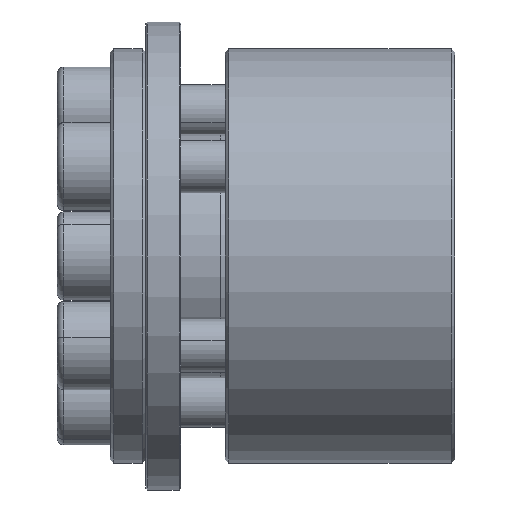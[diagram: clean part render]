
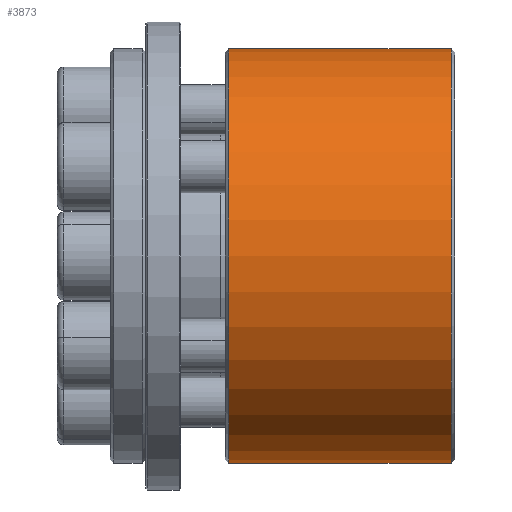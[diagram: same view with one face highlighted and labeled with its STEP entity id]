
A CAD part, front view. The second image highlights one B-rep face of the part: STEP entity #3873.
In plain terms, the highlighted cylindrical face has radius 23.46 mm (diameter 46.92 mm), a partial arc.
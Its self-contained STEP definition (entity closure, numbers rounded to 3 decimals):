
#427 = CYLINDRICAL_SURFACE ( 'NONE', #3672, 23.46 ) ;
#527 = VECTOR ( 'NONE', #5655, 1000. ) ;
#668 = CARTESIAN_POINT ( 'NONE',  ( -92.766, 26.04, -23.46 ) ) ;
#706 = ORIENTED_EDGE ( 'NONE', *, *, #2789, .F. ) ;
#815 = AXIS2_PLACEMENT_3D ( 'NONE', #3629, #6204, #4694 ) ;
#963 = VECTOR ( 'NONE', #5692, 1000. ) ;
#984 = VERTEX_POINT ( 'NONE', #3770 ) ;
#1218 = EDGE_CURVE ( 'NONE', #984, #4377, #3642, .T. ) ;
#1375 = DIRECTION ( 'NONE',  ( 0., 0., 1. ) ) ;
#1420 = EDGE_CURVE ( 'NONE', #3861, #984, #4655, .T. ) ;
#1639 = LINE ( 'NONE', #668, #527 ) ;
#1829 = CARTESIAN_POINT ( 'NONE',  ( -92.766, 26.04, 0. ) ) ;
#1860 = ORIENTED_EDGE ( 'NONE', *, *, #1420, .T. ) ;
#2789 = EDGE_CURVE ( 'NONE', #3861, #5122, #1639, .T. ) ;
#2809 = EDGE_LOOP ( 'NONE', ( #706, #1860, #6065, #5088 ) ) ;
#3087 = CARTESIAN_POINT ( 'NONE',  ( -92.366, 26.04, 23.46 ) ) ;
#3629 = CARTESIAN_POINT ( 'NONE',  ( -92.366, 26.04, 0. ) ) ;
#3642 = LINE ( 'NONE', #4677, #963 ) ;
#3672 = AXIS2_PLACEMENT_3D ( 'NONE', #1829, #3987, #3923 ) ;
#3770 = CARTESIAN_POINT ( 'NONE',  ( -67.166, 26.04, 23.46 ) ) ;
#3861 = VERTEX_POINT ( 'NONE', #4989 ) ;
#3873 = ADVANCED_FACE ( 'NONE', ( #5020 ), #427, .T. ) ;
#3923 = DIRECTION ( 'NONE',  ( 0., 0., 1. ) ) ;
#3987 = DIRECTION ( 'NONE',  ( -1., 0., 0. ) ) ;
#4075 = DIRECTION ( 'NONE',  ( -1., 0., 0. ) ) ;
#4377 = VERTEX_POINT ( 'NONE', #3087 ) ;
#4427 = CIRCLE ( 'NONE', #815, 23.46 ) ;
#4655 = CIRCLE ( 'NONE', #5811, 23.46 ) ;
#4677 = CARTESIAN_POINT ( 'NONE',  ( -92.766, 26.04, 23.46 ) ) ;
#4694 = DIRECTION ( 'NONE',  ( 0., 0., -1. ) ) ;
#4989 = CARTESIAN_POINT ( 'NONE',  ( -67.166, 26.04, -23.46 ) ) ;
#5020 = FACE_OUTER_BOUND ( 'NONE', #2809, .T. ) ;
#5088 = ORIENTED_EDGE ( 'NONE', *, *, #5964, .T. ) ;
#5122 = VERTEX_POINT ( 'NONE', #6468 ) ;
#5462 = CARTESIAN_POINT ( 'NONE',  ( -67.166, 26.04, 0. ) ) ;
#5655 = DIRECTION ( 'NONE',  ( -1., 0., 0. ) ) ;
#5692 = DIRECTION ( 'NONE',  ( -1., 0., 0. ) ) ;
#5811 = AXIS2_PLACEMENT_3D ( 'NONE', #5462, #4075, #1375 ) ;
#5964 = EDGE_CURVE ( 'NONE', #4377, #5122, #4427, .T. ) ;
#6065 = ORIENTED_EDGE ( 'NONE', *, *, #1218, .T. ) ;
#6204 = DIRECTION ( 'NONE',  ( 1., 0., 0. ) ) ;
#6468 = CARTESIAN_POINT ( 'NONE',  ( -92.366, 26.04, -23.46 ) ) ;
